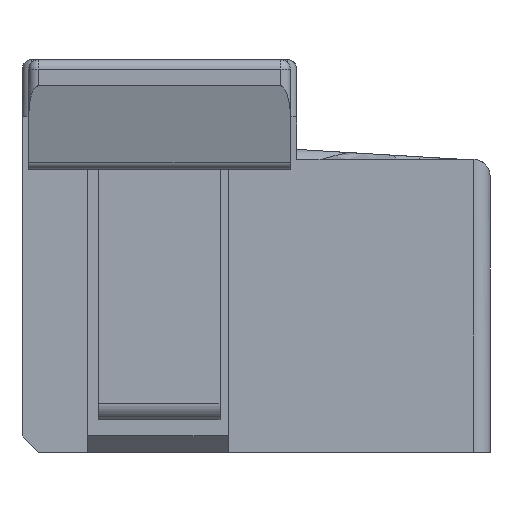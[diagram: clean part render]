
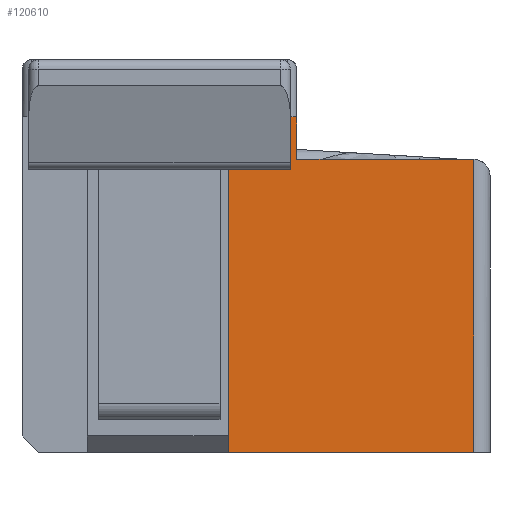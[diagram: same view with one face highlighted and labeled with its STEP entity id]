
A CAD part, front view. The second image highlights one B-rep face of the part: STEP entity #120610.
In plain terms, the highlighted planar face has unit normal (0, -1, 0) as drawn and (0, 1, 0) by its records, which use the part's own axes.
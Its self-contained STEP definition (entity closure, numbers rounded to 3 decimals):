
#26800=CARTESIAN_POINT('',(-6.805,386.372,
134.359));
#26810=VERTEX_POINT('',#26800);
#26840=CARTESIAN_POINT('',(1.195,386.372,
134.359));
#26850=DIRECTION('',(-1.,0.,0.));
#26860=VECTOR('',#26850,1.);
#26870=LINE('',#26840,#26860);
#26880=CARTESIAN_POINT('',(0.695,386.372,
134.359));
#26890=VERTEX_POINT('',#26880);
#26900=EDGE_CURVE('',#26890,#26810,#26870,.T.);
#54240=CARTESIAN_POINT('',(0.695,386.372,
125.409));
#54250=VERTEX_POINT('',#54240);
#108280=CARTESIAN_POINT('',(1.195,386.372,
125.409));
#108290=DIRECTION('',(-1.,0.,0.));
#108300=VECTOR('',#108290,1.);
#108310=LINE('',#108280,#108300);
#108320=CARTESIAN_POINT('',(-4.705,386.372,
125.409));
#108330=VERTEX_POINT('',#108320);
#108340=EDGE_CURVE('',#54250,#108330,#108310,.T.);
#120240=CARTESIAN_POINT('',(-14.535,386.372,
124.109));
#120250=DIRECTION('',(0.,-1.,0.));
#120260=DIRECTION('',(0.,0.,1.));
#120270=AXIS2_PLACEMENT_3D('',#120240,#120250,#120260);
#120280=PLANE('',#120270);
#120290=ORIENTED_EDGE('',*,*,#108340,.T.);
#120300=CARTESIAN_POINT('',(0.695,386.372,
2.621));
#120310=DIRECTION('',(0.,0.,-1.));
#120320=VECTOR('',#120310,1.);
#120330=LINE('',#120300,#120320);
#120340=EDGE_CURVE('',#26890,#54250,#120330,.T.);
#120350=ORIENTED_EDGE('',*,*,#120340,.T.);
#120360=ORIENTED_EDGE('',*,*,#26900,.F.);
#120370=CARTESIAN_POINT('',(-6.805,386.372,
2.621));
#120380=DIRECTION('',(0.,0.,1.));
#120390=VECTOR('',#120380,1.);
#120400=LINE('',#120370,#120390);
#120410=CARTESIAN_POINT('',(-6.805,386.372,
124.109));
#120420=VERTEX_POINT('',#120410);
#120430=EDGE_CURVE('',#120420,#26810,#120400,.T.);
#120440=ORIENTED_EDGE('',*,*,#120430,.T.);
#120450=CARTESIAN_POINT('',(1.195,386.372,
124.109));
#120460=DIRECTION('',(1.,0.,0.));
#120470=VECTOR('',#120460,1.);
#120480=LINE('',#120450,#120470);
#120490=CARTESIAN_POINT('',(-4.705,386.372,
124.109));
#120500=VERTEX_POINT('',#120490);
#120510=EDGE_CURVE('',#120420,#120500,#120480,.T.);
#120520=ORIENTED_EDGE('',*,*,#120510,.F.);
#120530=CARTESIAN_POINT('',(-4.705,386.372,
2.621));
#120540=DIRECTION('',(0.,0.,1.));
#120550=VECTOR('',#120540,1.);
#120560=LINE('',#120530,#120550);
#120570=EDGE_CURVE('',#120500,#108330,#120560,.T.);
#120580=ORIENTED_EDGE('',*,*,#120570,.F.);
#120590=EDGE_LOOP('',(#120580,#120520,#120440,#120360,#120350,#120290));
#120600=FACE_OUTER_BOUND('',#120590,.T.);
#120610=ADVANCED_FACE('',(#120600),#120280,.F.);
